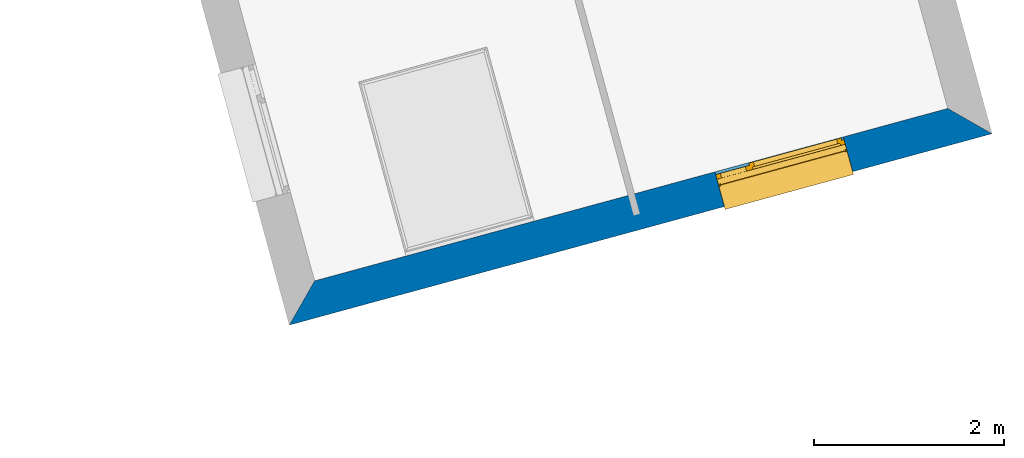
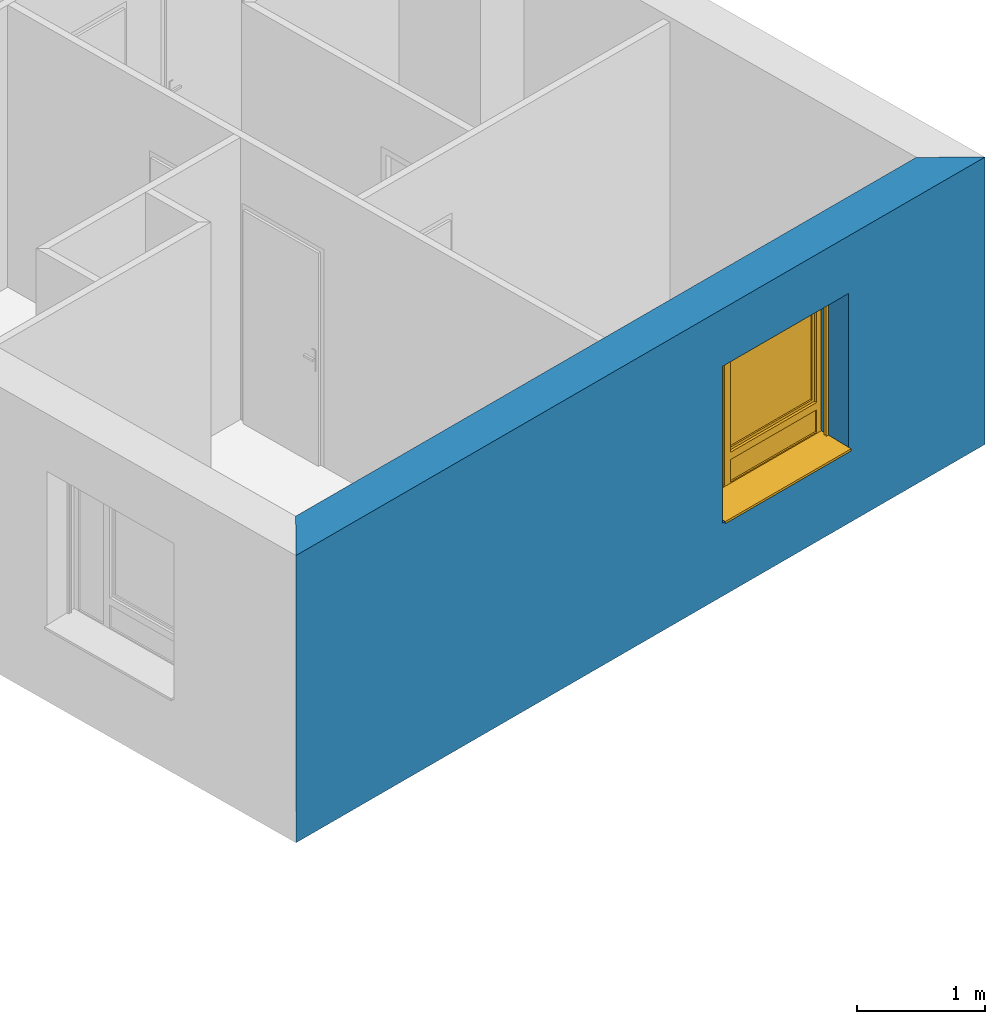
# One storey, part 60 of 121: 1 wall, 1 window, 1 opening.
"""IFC2X3 building model written with IfcOpenShell, lengths in metres."""

from ifc_helpers import new_model, entity, si_unit, converted_unit, derived_unit, money_unit, direction, frame, origin_with_axes, place, context, subcontext, project, spatial, polyline, outline, extrude, open_shell, faceted_brep, surface_model, source, transform, mapped, material, layer, layer_set, layer_usage, type_object, element, fill, save


model = new_model("IFC2X3")

# Units and contexts
model_context = context("Model", 3, precision=1e-05, world=origin_with_axes(), true_north=direction((0.0, 1.0)))
body_context = subcontext(model_context, "Body", "Model", "MODEL_VIEW")
ifc_project = project(units=[si_unit("LENGTHUNIT", "METRE"), si_unit("AREAUNIT", "SQUARE_METRE"), si_unit("VOLUMEUNIT", "CUBIC_METRE"), converted_unit("PLANEANGLEUNIT", "DEGREE", entity("IfcPlaneAngleMeasure", 0.0174532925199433), si_unit("PLANEANGLEUNIT", "RADIAN"), dimensions=[0, 0, 0, 0, 0, 0, 0]), money_unit("CHF"), converted_unit("TIMEUNIT", "Year", entity("IfcTimeMeasure", 31557600.0), si_unit("TIMEUNIT", "SECOND"), dimensions=[0, 0, 1, 0, 0, 0, 0]), si_unit("MASSUNIT", "GRAM", prefix="KILO"), si_unit("THERMODYNAMICTEMPERATUREUNIT", "DEGREE_CELSIUS"), si_unit("LUMINOUSINTENSITYUNIT", "LUMEN"), si_unit("ENERGYUNIT", "JOULE", prefix="MEGA"), derived_unit("THERMALCONDUCTANCEUNIT", [(si_unit("POWERUNIT", "WATT"), 1), (si_unit("LENGTHUNIT", "METRE"), -1), (si_unit("THERMODYNAMICTEMPERATUREUNIT", "KELVIN"), -1)]), derived_unit("SPECIFICHEATCAPACITYUNIT", [(si_unit("ENERGYUNIT", "JOULE"), 1), (si_unit("MASSUNIT", "GRAM", prefix="KILO"), -1), (si_unit("THERMODYNAMICTEMPERATUREUNIT", "KELVIN"), -1)]), derived_unit("MASSDENSITYUNIT", [(si_unit("MASSUNIT", "GRAM", prefix="KILO"), 1), (si_unit("VOLUMEUNIT", "CUBIC_METRE"), -1)])], contexts=[model_context])

# Site, building, storey
site_placement = place(None, origin_with_axes())
site = spatial("IfcSite", under=ifc_project, at=site_placement, Name="Site", CompositionType="ELEMENT")
building_placement = place(site_placement, origin_with_axes())
building = spatial("IfcBuilding", under=site, at=building_placement, Name="Bâtiment", CompositionType="ELEMENT")
storey_placement = place(building_placement, frame((0.0, 0.0, 2.75), z_axis=(0.0, 0.0, 1.0), x_axis=(1.0, 0.0, 0.0)))
storey = spatial("IfcBuildingStorey", under=building, at=storey_placement, Name="Etage 1", CompositionType="ELEMENT", Elevation=2.75)

# Wall, opening, window
ifc_material_1 = material(Name="Parpaing 312445824")
ifc_layer_1 = layer(ifc_material_1, 0.22, ventilated="UNKNOWN")
ifc_material_2 = material(Name="Isolant styromousse 301821074")
ifc_layer_2 = layer(ifc_material_2, 0.16, ventilated="UNKNOWN")
ifc_layer_set = layer_set([ifc_layer_1, ifc_layer_2], Name="isol int 22+16 0836643197")
ifc_layer_usage = layer_usage(ifc_layer_set, "AXIS2", "NEGATIVE", 0.0)
wall_type = type_object("IfcWallType", Name="isol int 22+16 0836643197 380", PredefinedType="NOTDEFINED")
wall_placement = place(storey_placement, frame((9597.140845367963, -1057.414526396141, 57.7), z_axis=(0.0, 0.0, 1.0), x_axis=(-0.9648682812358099, -0.2627340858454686, 0.0)))
wall = element("IfcWallStandardCase", 1, at=wall_placement, inside=storey, type_object=wall_type, material=ifc_layer_usage, Name="Mur-113", context=body_context, shape_type="SweptSolid", body=[
    extrude(outline(polyline([(0.38000000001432, -0.3800000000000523), (7.289914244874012, -0.3800000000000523), (7.669914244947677, 0.0), (0.0, 0.0), (0.38000000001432, -0.3800000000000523)])), origin_with_axes(), (0.0, 0.0, 1.0), 2.75),
])
opening_placement = place(wall_placement, frame((2.220680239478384, 0.0, 0.7000000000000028), z_axis=(0.0, 0.0, 1.0), x_axis=(1.0, 0.0, 0.0)))
opening = element("IfcOpeningElement", 2, at=opening_placement, cuts=wall, Name="Fen-045", context=body_context, shape_type="Brep", body=[
    faceted_brep([(-0.7000000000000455, -0.3000000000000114, 1.5), (-0.7000000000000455, -0.2200000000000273, 1.5), (-0.6999999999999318, 1.945352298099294, 1.5), (-0.6999999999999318, 1.945352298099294, 0.0), (-0.7000000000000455, -0.3000000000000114, 0.0), (-0.6999999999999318, -0.480000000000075, 1.5), (-0.6999999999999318, -0.480000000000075, 1.700000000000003), (-0.7000000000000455, -0.2200000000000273, 1.700000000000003), (0.6999999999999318, -0.2199999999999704, 1.5), (0.6999999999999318, 1.945352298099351, 1.5), (0.6999999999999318, 1.945352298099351, 0.0), (0.6999999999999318, -0.3000000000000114, 0.0), (-0.7000000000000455, -2.325352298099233, 0.0), (-0.7000000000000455, -2.325352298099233, 1.5), (0.7000000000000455, -0.4800000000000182, 1.5), (0.7000000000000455, -0.4800000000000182, 1.700000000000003), (0.6999999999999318, -0.2199999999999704, 1.700000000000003), (0.6999999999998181, -0.3000000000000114, 1.5), (0.7000000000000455, -2.325352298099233, 0.0), (0.7000000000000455, -2.325352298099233, 1.5)], [[[0, 1, 2, 3, 4]], [[1, 0, 5, 6, 7]], [[1, 8, 9, 2]], [[9, 10, 3, 2]], [[11, 4, 3, 10]], [[5, 0, 4, 12, 13]], [[5, 14, 15, 6]], [[15, 16, 7, 6]], [[8, 1, 7, 16]], [[8, 17, 11, 10, 9]], [[4, 11, 18, 12]], [[13, 12, 18, 19]], [[14, 5, 13, 19]], [[17, 8, 16, 15, 14]], [[17, 14, 19, 18, 11]]]),
])
window_style = type_object("IfcWindowStyle", Name="Fenêtre variable 27", ConstructionType="NOTDEFINED", OperationType="TRIPLE_PANEL_LEFT", ParameterTakesPrecedence=False, Sizeable=False)
shared_shape = source(origin_with_axes(), body_context, "Body", "SurfaceModel", [
    surface_model("IfcShellBasedSurfaceModel", [(0.7, -0.05100000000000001, 0.05), (-0.7, -0.05100000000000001, 0.05000000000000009), (-0.7, -0.05100000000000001, 0.04000000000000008), (0.7, -0.05100000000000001, 0.04), (-0.7, -0.3799999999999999, 0.02900000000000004), (0.7, -0.3799999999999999, 0.02899999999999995), (-0.7, -0.3799999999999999, 0.00900000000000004), (0.7, -0.3799999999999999, 0.008999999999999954), (-0.7, -0.3699999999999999, 0.01900000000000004), (0.7, -0.3699999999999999, 0.01899999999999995)], [open_shell([[[0, 1, 2, 3]], [[3, 2, 4, 5]], [[5, 4, 6, 7]], [[7, 6, 8, 9]]])]),
    faceted_brep([(0.7, -0.13, 1.7), (0.7, 0.13, 1.7), (0.697, 0.13, 1.7), (0.697, -0.13, 1.7), (0.7, -0.13, 1.5), (0.7, 0.13, 1.5), (0.697, 0.13, 1.5), (0.697, -0.13, 1.5)], [[[0, 1, 2, 3]], [[0, 4, 5, 1]], [[1, 5, 6, 2]], [[3, 2, 6, 7]], [[4, 0, 3, 7]], [[5, 4, 7, 6]]]),
    faceted_brep([(-0.6970000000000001, -0.1299999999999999, 1.7), (-0.6970000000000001, 0.1300000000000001, 1.7), (-0.7000000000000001, 0.1300000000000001, 1.7), (-0.7000000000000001, -0.1299999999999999, 1.7), (-0.6970000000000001, -0.1299999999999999, 1.5), (-0.6970000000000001, 0.1300000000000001, 1.5), (-0.7000000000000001, 0.1300000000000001, 1.5), (-0.7000000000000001, -0.1299999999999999, 1.5)], [[[0, 1, 2, 3]], [[0, 4, 5, 1]], [[1, 5, 6, 2]], [[3, 2, 6, 7]], [[4, 0, 3, 7]], [[5, 4, 7, 6]]]),
    faceted_brep([(0.697, -0.13, 1.5), (0.697, -0.13, 1.7), (-0.697, -0.1299999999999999, 1.7), (-0.697, -0.1299999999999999, 1.5), (0.697, -0.127, 1.5), (0.697, -0.127, 1.697), (0.697, 0.127, 1.697), (0.697, 0.127, 1.503), (0.697, -0.108, 1.503), (0.697, -0.108, 1.5), (0.697, 0.13, 1.5), (0.697, 0.13, 1.7), (-0.697, 0.1300000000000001, 1.7), (-0.697, 0.1300000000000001, 1.5), (-0.697, -0.1079999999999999, 1.5), (-0.697, -0.1079999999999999, 1.503), (-0.697, 0.1270000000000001, 1.503), (-0.697, 0.1270000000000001, 1.697), (-0.697, -0.1269999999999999, 1.697), (-0.697, -0.1269999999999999, 1.5)], [[[0, 1, 2, 3]], [[0, 4, 5, 6, 7, 8, 9, 10, 11, 1]], [[1, 11, 12, 2]], [[3, 2, 12, 13, 14, 15, 16, 17, 18, 19]], [[4, 0, 3, 19]], [[5, 4, 19, 18]], [[6, 5, 18, 17]], [[7, 6, 17, 16]], [[8, 7, 16, 15]], [[9, 8, 15, 14]], [[10, 9, 14, 13]], [[11, 10, 13, 12]]]),
    faceted_brep([(0.694, -0.08075423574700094, 1.585760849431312), (0.694, -0.07705479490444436, 1.571954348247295), (0.694, -0.07101408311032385, 1.559), (0.694, -0.06281564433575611, 1.547291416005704), (0.694, -0.05270858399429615, 1.537184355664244), (0.694, -0.04099999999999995, 1.528985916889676), (0.694, -0.02804565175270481, 1.522945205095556), (0.694, -0.01423915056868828, 1.519245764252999), (0.694, 0.0, 1.518), (0.694, 0.01423915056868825, 1.519245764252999), (0.694, 0.02804565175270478, 1.522945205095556), (0.694, 0.04099999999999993, 1.528985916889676), (0.694, 0.05270858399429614, 1.537184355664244), (0.694, 0.06281564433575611, 1.547291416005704), (0.694, 0.07101408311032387, 1.559), (0.694, 0.07705479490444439, 1.571954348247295), (0.694, 0.08075423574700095, 1.585760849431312), (0.694, 0.0819999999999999, 1.6), (0.694, 0.08075423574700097, 1.614239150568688), (0.694, 0.0770547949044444, 1.628045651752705), (0.694, 0.07101408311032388, 1.641), (0.694, 0.06281564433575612, 1.652708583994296), (0.694, 0.05270858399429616, 1.662815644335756), (0.694, 0.04099999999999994, 1.671014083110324), (0.694, 0.02804565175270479, 1.677054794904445), (0.694, 0.01423915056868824, 1.680754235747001), (0.694, 0.0, 1.682), (0.694, -0.01423915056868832, 1.680754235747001), (0.694, -0.02804565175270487, 1.677054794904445), (0.694, -0.04100000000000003, 1.671014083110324), (0.694, -0.05270858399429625, 1.662815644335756), (0.694, -0.06281564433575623, 1.652708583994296), (0.694, -0.07101408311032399, 1.641), (0.694, -0.07705479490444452, 1.628045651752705), (0.694, -0.0807542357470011, 1.614239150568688), (0.694, -0.08200000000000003, 1.6), (-0.694, -0.08075423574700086, 1.585760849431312), (-0.694, -0.07705479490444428, 1.571954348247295), (-0.694, -0.07101408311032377, 1.559), (-0.694, -0.06281564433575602, 1.547291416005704), (-0.694, -0.05270858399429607, 1.537184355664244), (-0.694, -0.04099999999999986, 1.528985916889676), (-0.694, -0.02804565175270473, 1.522945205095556), (-0.694, -0.0142391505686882, 1.519245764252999), (-0.694, 0.0, 1.518), (-0.694, 0.01423915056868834, 1.519245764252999), (-0.694, 0.02804565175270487, 1.522945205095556), (-0.694, 0.04100000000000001, 1.528985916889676), (-0.694, 0.05270858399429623, 1.537184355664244), (-0.694, 0.06281564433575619, 1.547291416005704), (-0.694, 0.07101408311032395, 1.559), (-0.694, 0.07705479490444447, 1.571954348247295), (-0.694, 0.08075423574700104, 1.585760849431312), (-0.694, 0.08199999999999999, 1.6), (-0.694, 0.08075423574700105, 1.614239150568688), (-0.694, 0.07705479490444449, 1.628045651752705), (-0.694, 0.07101408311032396, 1.641), (-0.694, 0.0628156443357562, 1.652708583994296), (-0.694, 0.05270858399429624, 1.662815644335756), (-0.694, 0.04100000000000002, 1.671014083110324), (-0.694, 0.02804565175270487, 1.677054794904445), (-0.694, 0.01423915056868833, 1.680754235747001), (-0.694, 0.0, 1.682), (-0.694, -0.01423915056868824, 1.680754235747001), (-0.694, -0.02804565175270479, 1.677054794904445), (-0.694, -0.04099999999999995, 1.671014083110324), (-0.694, -0.05270858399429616, 1.662815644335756), (-0.694, -0.06281564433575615, 1.652708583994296), (-0.694, -0.07101408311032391, 1.641), (-0.694, -0.07705479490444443, 1.628045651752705), (-0.694, -0.08075423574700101, 1.614239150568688), (-0.694, -0.08199999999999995, 1.6)], [[[0, 1, 2, 3, 4, 5, 6, 7, 8, 9, 10, 11, 12, 13, 14, 15, 16, 17, 18, 19, 20, 21, 22, 23, 24, 25, 26, 27, 28, 29, 30, 31, 32, 33, 34, 35]], [[1, 0, 36, 37]], [[2, 1, 37, 38]], [[3, 2, 38, 39]], [[4, 3, 39, 40]], [[5, 4, 40, 41]], [[6, 5, 41, 42]], [[7, 6, 42, 43]], [[8, 7, 43, 44]], [[9, 8, 44, 45]], [[10, 9, 45, 46]], [[11, 10, 46, 47]], [[12, 11, 47, 48]], [[13, 12, 48, 49]], [[14, 13, 49, 50]], [[15, 14, 50, 51]], [[16, 15, 51, 52]], [[17, 16, 52, 53]], [[18, 17, 53, 54]], [[19, 18, 54, 55]], [[20, 19, 55, 56]], [[21, 20, 56, 57]], [[22, 21, 57, 58]], [[23, 22, 58, 59]], [[24, 23, 59, 60]], [[25, 24, 60, 61]], [[26, 25, 61, 62]], [[27, 26, 62, 63]], [[28, 27, 63, 64]], [[29, 28, 64, 65]], [[30, 29, 65, 66]], [[31, 30, 66, 67]], [[32, 31, 67, 68]], [[33, 32, 68, 69]], [[34, 33, 69, 70]], [[35, 34, 70, 71]], [[0, 35, 71, 36]], [[36, 71, 70, 69, 68, 67, 66, 65, 64, 63, 62, 61, 60, 59, 58, 57, 56, 55, 54, 53, 52, 51, 50, 49, 48, 47, 46, 45, 44, 43, 42, 41, 40, 39, 38, 37]]]),
    faceted_brep([(-0.7, -0.105, 0.03), (-0.7, -0.13, 0.03), (-0.7, -0.1299999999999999, 1.5), (-0.7, -0.1049999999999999, 1.5), (-0.6749999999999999, -0.105, 0.03), (-0.6749999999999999, -0.108, 0.03), (-0.697, -0.108, 0.03), (-0.697, -0.127, 0.03), (-0.6749999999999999, -0.127, 0.03), (-0.6749999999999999, -0.13, 0.03), (-0.6749999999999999, -0.1299999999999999, 1.5), (-0.6749999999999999, -0.1269999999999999, 1.5), (-0.697, -0.1269999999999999, 1.5), (-0.697, -0.1079999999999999, 1.5), (-0.6749999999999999, -0.1079999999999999, 1.5), (-0.6749999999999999, -0.1049999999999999, 1.5)], [[[0, 1, 2, 3]], [[0, 4, 5, 6, 7, 8, 9, 1]], [[1, 9, 10, 2]], [[3, 2, 10, 11, 12, 13, 14, 15]], [[4, 0, 3, 15]], [[5, 4, 15, 14]], [[6, 5, 14, 13]], [[7, 6, 13, 12]], [[8, 7, 12, 11]], [[9, 8, 11, 10]]]),
    faceted_brep([(0.7, -0.105, 0.03), (0.7, -0.1049999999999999, 1.5), (0.7, -0.1299999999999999, 1.5), (0.7, -0.13, 0.03), (0.6749999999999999, -0.105, 0.03), (0.6749999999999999, -0.1049999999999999, 1.5), (0.6749999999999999, -0.1079999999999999, 1.5), (0.697, -0.1079999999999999, 1.5), (0.697, -0.1269999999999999, 1.5), (0.6749999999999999, -0.1269999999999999, 1.5), (0.6749999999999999, -0.1299999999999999, 1.5), (0.6749999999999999, -0.13, 0.03), (0.6749999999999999, -0.127, 0.03), (0.697, -0.127, 0.03), (0.697, -0.108, 0.03), (0.6749999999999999, -0.108, 0.03)], [[[0, 1, 2, 3]], [[4, 5, 1, 0]], [[1, 5, 6, 7, 8, 9, 10, 2]], [[3, 2, 10, 11]], [[0, 3, 11, 12, 13, 14, 15, 4]], [[15, 6, 5, 4]], [[14, 7, 6, 15]], [[13, 8, 7, 14]], [[12, 9, 8, 13]], [[11, 10, 9, 12]]]),
    surface_model("IfcShellBasedSurfaceModel", [(0.697, -0.115, 1.6), (-0.697, -0.1149999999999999, 1.6), (-0.697, -0.12, 1.6), (0.697, -0.12, 1.6), (0.697, -0.115, 1.6), (0.697, -0.12, 1.6), (-0.697, -0.1199999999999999, 1.6), (-0.697, -0.1149999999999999, 1.6)], [open_shell([[[0, 1, 2, 3]], [[4, 5, 6, 7]]])]),
    faceted_brep([(0.697, -0.115, 1.6), (0.697, -0.1166666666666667, 1.583333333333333), (-0.697, -0.1166666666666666, 1.583333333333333), (-0.697, -0.1149999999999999, 1.6), (0.697, -0.12, 1.6), (0.697, -0.1216666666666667, 1.583333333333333), (0.697, -0.1216666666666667, 1.566666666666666), (0.697, -0.12, 1.55), (0.697, -0.115, 1.55), (0.697, -0.1166666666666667, 1.566666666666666), (-0.697, -0.1166666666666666, 1.566666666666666), (-0.697, -0.1149999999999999, 1.55), (-0.697, -0.1199999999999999, 1.55), (-0.697, -0.1216666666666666, 1.566666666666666), (-0.697, -0.1216666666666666, 1.583333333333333), (-0.697, -0.1199999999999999, 1.6)], [[[0, 1, 2, 3]], [[0, 4, 5, 6, 7, 8, 9, 1]], [[1, 9, 10, 2]], [[3, 2, 10, 11, 12, 13, 14, 15]], [[4, 0, 3, 15]], [[5, 4, 15, 14]], [[6, 5, 14, 13]], [[7, 6, 13, 12]], [[8, 7, 12, 11]], [[9, 8, 11, 10]]]),
    faceted_brep([(0.697, -0.115, 1.55), (0.697, -0.1166666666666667, 1.533333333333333), (-0.697, -0.1166666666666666, 1.533333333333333), (-0.697, -0.1149999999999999, 1.55), (0.697, -0.12, 1.55), (0.697, -0.1216666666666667, 1.533333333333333), (0.697, -0.1216666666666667, 1.516666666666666), (0.697, -0.12, 1.5), (0.697, -0.115, 1.5), (0.697, -0.1166666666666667, 1.516666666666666), (-0.697, -0.1166666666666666, 1.516666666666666), (-0.697, -0.1149999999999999, 1.5), (-0.697, -0.1199999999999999, 1.5), (-0.697, -0.1216666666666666, 1.516666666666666), (-0.697, -0.1216666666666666, 1.533333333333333), (-0.697, -0.1199999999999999, 1.55)], [[[0, 1, 2, 3]], [[0, 4, 5, 6, 7, 8, 9, 1]], [[1, 9, 10, 2]], [[3, 2, 10, 11, 12, 13, 14, 15]], [[4, 0, 3, 15]], [[5, 4, 15, 14]], [[6, 5, 14, 13]], [[7, 6, 13, 12]], [[8, 7, 12, 11]], [[9, 8, 11, 10]]]),
    faceted_brep([(0.6749999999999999, 0.0, 1.45), (0.6749999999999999, -0.02500000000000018, 1.45), (0.6499999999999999, -0.02500000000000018, 1.45), (0.6499999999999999, -0.05000000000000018, 1.45), (0.7, -0.05000000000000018, 1.45), (0.7, 0.0, 1.45), (0.6749999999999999, 0.0, 0.3099999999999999), (0.6749999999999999, -0.02500000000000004, 0.3099999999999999), (0.6499999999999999, -0.02500000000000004, 0.335), (0.6499999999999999, -0.02500000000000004, 0.3099999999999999), (0.6499999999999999, -0.05000000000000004, 0.335), (0.6499999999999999, -0.05000000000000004, 0.265), (0.6499999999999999, -0.05000000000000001, 0.05000000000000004), (0.7, -0.05000000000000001, 0.05000000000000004), (0.7, 0.0, 0.05000000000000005), (0.6499999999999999, 0.0, 0.05000000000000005), (0.6499999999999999, 0.0, 0.265), (0.6499999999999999, 0.0, 0.3099999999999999)], [[[0, 1, 2, 3, 4, 5]], [[1, 0, 6, 7]], [[8, 2, 1, 7, 9]], [[2, 8, 10, 3]], [[10, 11, 12, 13, 4, 3]], [[5, 4, 13, 14]], [[6, 0, 5, 14, 15, 16, 17]], [[6, 17, 9, 7]], [[9, 17, 16, 11, 10, 8]], [[15, 12, 11, 16]], [[14, 13, 12, 15]]]),
    faceted_brep([(-0.3068894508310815, -0.02500000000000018, 1.45), (-0.3318894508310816, -0.02500000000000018, 1.45), (-0.3318894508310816, 0.0, 1.45), (-0.3768894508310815, 0.0, 1.45), (-0.3768894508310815, -0.05000000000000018, 1.45), (-0.3068894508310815, -0.05000000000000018, 1.45), (-0.3068894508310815, -0.02500000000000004, 0.335), (-0.3068894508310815, -0.02500000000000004, 0.3099999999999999), (-0.3318894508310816, -0.02500000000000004, 0.3099999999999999), (-0.3318894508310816, 0.0, 0.3099999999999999), (-0.3068894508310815, 0.0, 0.3099999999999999), (-0.3068894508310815, 0.0, 0.265), (-0.3068894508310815, 0.0, 0.05000000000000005), (-0.3768894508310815, 0.0, 0.05000000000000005), (-0.3768894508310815, -0.05000000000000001, 0.05000000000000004), (-0.3068894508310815, -0.05000000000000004, 0.265), (-0.3068894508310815, -0.05000000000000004, 0.335), (-0.3068894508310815, -0.05000000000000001, 0.05000000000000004)], [[[0, 1, 2, 3, 4, 5]], [[1, 0, 6, 7, 8]], [[9, 2, 1, 8]], [[9, 10, 11, 12, 13, 3, 2]], [[13, 14, 4, 3]], [[15, 16, 5, 4, 14, 17]], [[6, 0, 5, 16]], [[7, 6, 16, 15, 11, 10]], [[10, 9, 8, 7]], [[11, 15, 17, 12]], [[12, 17, 14, 13]]]),
    faceted_brep([(0.6499999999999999, -0.02500000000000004, 0.335), (-0.3068894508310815, -0.02500000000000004, 0.335), (-0.3068894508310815, -0.05000000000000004, 0.335), (0.6499999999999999, -0.05000000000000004, 0.335), (-0.3068894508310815, -0.02500000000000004, 0.3099999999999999), (0.6499999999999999, -0.02500000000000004, 0.3099999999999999), (-0.3068894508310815, 0.0, 0.3099999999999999), (-0.3068894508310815, 0.0, 0.265), (-0.3068894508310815, -0.05000000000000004, 0.265), (0.6499999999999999, -0.05000000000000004, 0.265), (0.6499999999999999, 0.0, 0.265), (0.6499999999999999, 0.0, 0.3099999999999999)], [[[0, 1, 2, 3]], [[4, 1, 0, 5]], [[4, 6, 7, 8, 2, 1]], [[2, 8, 9, 3]], [[5, 0, 3, 9, 10, 11]], [[11, 6, 4, 5]], [[6, 11, 10, 7]], [[10, 9, 8, 7]]]),
    faceted_brep([(0.6749999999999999, 0.0, 1.45), (0.6749999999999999, 0.0, 1.475), (-0.3318894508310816, 0.0, 1.475), (-0.3318894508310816, 0.0, 1.45), (-0.3768894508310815, 0.0, 1.45), (-0.6499999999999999, 0.0, 1.45), (-0.7, 0.0, 1.45), (-0.7, 0.0, 1.5), (0.7, 0.0, 1.5), (0.7, 0.0, 1.45), (0.6749999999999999, -0.02500000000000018, 1.45), (0.6749999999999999, -0.02500000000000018, 1.475), (-0.3318894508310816, -0.02500000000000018, 1.475), (-0.3318894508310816, -0.02500000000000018, 1.45), (-0.3068894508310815, -0.02500000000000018, 1.45), (-0.3068894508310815, -0.05000000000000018, 1.45), (-0.3768894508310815, -0.05000000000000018, 1.45), (-0.6499999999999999, -0.05000000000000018, 1.45), (-0.7, -0.05000000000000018, 1.45), (-0.7, -0.05000000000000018, 1.5), (0.7, -0.05000000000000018, 1.5), (0.7, -0.05000000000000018, 1.45), (0.6499999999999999, -0.05000000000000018, 1.45), (0.6499999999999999, -0.02500000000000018, 1.45)], [[[0, 1, 2, 3, 4, 5, 6, 7, 8, 9]], [[1, 0, 10, 11]], [[2, 1, 11, 12]], [[3, 2, 12, 13]], [[13, 14, 15, 16, 4, 3]], [[4, 16, 17, 5]], [[5, 17, 18, 6]], [[6, 18, 19, 7]], [[7, 19, 20, 8]], [[8, 20, 21, 9]], [[10, 0, 9, 21, 22, 23]], [[14, 13, 12, 11, 10, 23]], [[14, 23, 22, 15]], [[16, 15, 22, 21, 20, 19, 18, 17]]]),
    faceted_brep([(-0.6499999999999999, -0.05000000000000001, 0.05), (-0.7, -0.05000000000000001, 0.05), (-0.7, 0.0, 0.05000000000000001), (-0.6499999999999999, 0.0, 0.05000000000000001), (-0.6499999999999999, -0.05000000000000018, 1.45), (-0.7, -0.05000000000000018, 1.45), (-0.7, 0.0, 1.45), (-0.6499999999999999, 0.0, 1.45)], [[[0, 1, 2, 3]], [[0, 4, 5, 1]], [[1, 5, 6, 2]], [[3, 2, 6, 7]], [[4, 0, 3, 7]], [[5, 4, 7, 6]]]),
    faceted_brep([(0.6499999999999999, -0.05000000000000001, 0.05), (0.7, -0.05000000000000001, 0.05), (0.7, 0.0, 0.05000000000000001), (0.6499999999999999, 0.0, 0.05000000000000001), (-0.3068894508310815, -0.05000000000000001, 0.05), (-0.3768894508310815, -0.05000000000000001, 0.05), (-0.6499999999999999, -0.05000000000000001, 0.05), (-0.7, -0.05000000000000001, 0.05), (-0.7, -0.05, 0.0), (0.7, -0.05, 0.0), (0.7, 0.0, 0.0), (-0.7, 0.0, 0.0), (-0.7, 0.0, 0.05000000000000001), (-0.6499999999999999, 0.0, 0.05000000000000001), (-0.3768894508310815, 0.0, 0.05000000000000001), (-0.3068894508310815, 0.0, 0.05000000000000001)], [[[0, 1, 2, 3]], [[0, 4, 5, 6, 7, 8, 9, 1]], [[1, 9, 10, 2]], [[3, 2, 10, 11, 12, 13, 14, 15]], [[4, 0, 3, 15]], [[5, 4, 15, 14]], [[6, 5, 14, 13]], [[7, 6, 13, 12]], [[8, 7, 12, 11]], [[9, 8, 11, 10]]]),
    faceted_brep([(0.625, -0.02500000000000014, 1.425), (0.6749999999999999, -0.02500000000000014, 1.425), (0.6749999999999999, 0.02499999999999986, 1.425), (0.625, 0.02499999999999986, 1.425), (0.625, -0.02500000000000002, 0.3599999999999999), (0.6749999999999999, -0.02500000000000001, 0.3599999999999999), (0.6749999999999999, 0.02499999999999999, 0.3599999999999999), (0.625, 0.02499999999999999, 0.3599999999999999)], [[[0, 1, 2, 3]], [[0, 4, 5, 1]], [[1, 5, 6, 2]], [[3, 2, 6, 7]], [[4, 0, 3, 7]], [[5, 4, 7, 6]]]),
    faceted_brep([(-0.2818894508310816, -0.02500000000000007, 0.3599999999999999), (-0.3318894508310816, -0.02500000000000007, 0.3599999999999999), (-0.3318894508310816, 0.02499999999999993, 0.3599999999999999), (-0.2818894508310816, 0.02499999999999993, 0.3599999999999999), (-0.2818894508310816, -0.0250000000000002, 1.425), (-0.3318894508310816, -0.0250000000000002, 1.425), (-0.3318894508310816, 0.0249999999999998, 1.425), (-0.2818894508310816, 0.0249999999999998, 1.425)], [[[0, 1, 2, 3]], [[0, 4, 5, 1]], [[1, 5, 6, 2]], [[3, 2, 6, 7]], [[4, 0, 3, 7]], [[5, 4, 7, 6]]]),
    faceted_brep([(-0.3318894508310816, -0.02500000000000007, 0.3099999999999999), (-0.3318894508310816, -0.02500000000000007, 0.3599999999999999), (-0.3318894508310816, 0.02499999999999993, 0.3599999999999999), (-0.3318894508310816, 0.02499999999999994, 0.3099999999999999), (0.6749999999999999, -0.025, 0.3099999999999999), (0.6749999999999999, -0.02500000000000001, 0.3599999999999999), (0.625, -0.02500000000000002, 0.3599999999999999), (-0.2818894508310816, -0.02500000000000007, 0.3599999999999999), (-0.2818894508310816, 0.02499999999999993, 0.3599999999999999), (0.625, 0.02499999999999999, 0.3599999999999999), (0.6749999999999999, 0.02499999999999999, 0.3599999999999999), (0.6749999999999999, 0.02499999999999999, 0.3099999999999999)], [[[0, 1, 2, 3]], [[0, 4, 5, 6, 7, 1]], [[1, 7, 8, 2]], [[3, 2, 8, 9, 10, 11]], [[4, 0, 3, 11]], [[5, 4, 11, 10]], [[6, 5, 10, 9]], [[7, 6, 9, 8]]]),
    faceted_brep([(0.6749999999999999, -0.02500000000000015, 1.475), (0.6749999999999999, -0.02500000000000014, 1.425), (0.6749999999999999, 0.02499999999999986, 1.425), (0.6749999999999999, 0.02499999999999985, 1.475), (-0.3318894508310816, -0.02500000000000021, 1.475), (-0.3318894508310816, -0.0250000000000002, 1.425), (-0.2818894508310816, -0.0250000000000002, 1.425), (0.625, -0.02500000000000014, 1.425), (0.625, 0.02499999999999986, 1.425), (-0.2818894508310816, 0.0249999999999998, 1.425), (-0.3318894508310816, 0.0249999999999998, 1.425), (-0.3318894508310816, 0.02499999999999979, 1.475)], [[[0, 1, 2, 3]], [[0, 4, 5, 6, 7, 1]], [[1, 7, 8, 2]], [[3, 2, 8, 9, 10, 11]], [[4, 0, 3, 11]], [[5, 4, 11, 10]], [[6, 5, 10, 9]], [[7, 6, 9, 8]]]),
    surface_model("IfcShellBasedSurfaceModel", [(0.625, -0.01000000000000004, 0.3599999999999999), (0.625, -0.01000000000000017, 1.425), (-0.2818894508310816, -0.01000000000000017, 1.425), (-0.2818894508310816, -0.01000000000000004, 0.3599999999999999)], [open_shell([[[0, 1, 2, 3]]])]),
    surface_model("IfcShellBasedSurfaceModel", [(0.625, 0.009999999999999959, 0.3599999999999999), (-0.2818894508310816, 0.009999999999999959, 0.3599999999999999), (-0.2818894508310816, 0.00999999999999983, 1.425), (0.625, 0.00999999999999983, 1.425)], [open_shell([[[0, 1, 2, 3]]])]),
    surface_model("IfcShellBasedSurfaceModel", [(-0.3768894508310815, -0.035, 0.05), (-0.3768894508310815, -0.03500000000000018, 1.45), (-0.65, -0.03500000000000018, 1.45), (-0.65, -0.035, 0.05)], [open_shell([[[0, 1, 2, 3]]])]),
    surface_model("IfcShellBasedSurfaceModel", [(-0.3768894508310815, -0.015, 0.05), (-0.65, -0.015, 0.05), (-0.65, -0.01500000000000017, 1.45), (-0.3768894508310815, -0.01500000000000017, 1.45)], [open_shell([[[0, 1, 2, 3]]])]),
    surface_model("IfcShellBasedSurfaceModel", [(0.6499999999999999, -0.035, 0.05), (0.6499999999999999, -0.03500000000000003, 0.265), (-0.3068894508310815, -0.03500000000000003, 0.265), (-0.3068894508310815, -0.035, 0.05)], [open_shell([[[0, 1, 2, 3]]])]),
    surface_model("IfcShellBasedSurfaceModel", [(0.6499999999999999, -0.015, 0.05), (-0.3068894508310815, -0.015, 0.05), (-0.3068894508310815, -0.01500000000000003, 0.265), (0.6499999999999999, -0.01500000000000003, 0.265)], [open_shell([[[0, 1, 2, 3]]])]),
])
window_placement = place(opening_placement, frame((0.699999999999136, 0.0, 0.0), z_axis=(0.0, 0.0, 1.0), x_axis=(-1.0, 0.0, 0.0)))
window = element("IfcWindow", 3, at=window_placement, inside=storey, type_object=window_style, Name="Fen-045", OverallHeight=1.5, OverallWidth=1.4, context=body_context, shape_type="MappedRepresentation", body=[
    mapped(shared_shape, transform((0.7000000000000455, 0.3499999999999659, 0.0))),
])
fill(opening, window)

save(model, "model.ifc")
